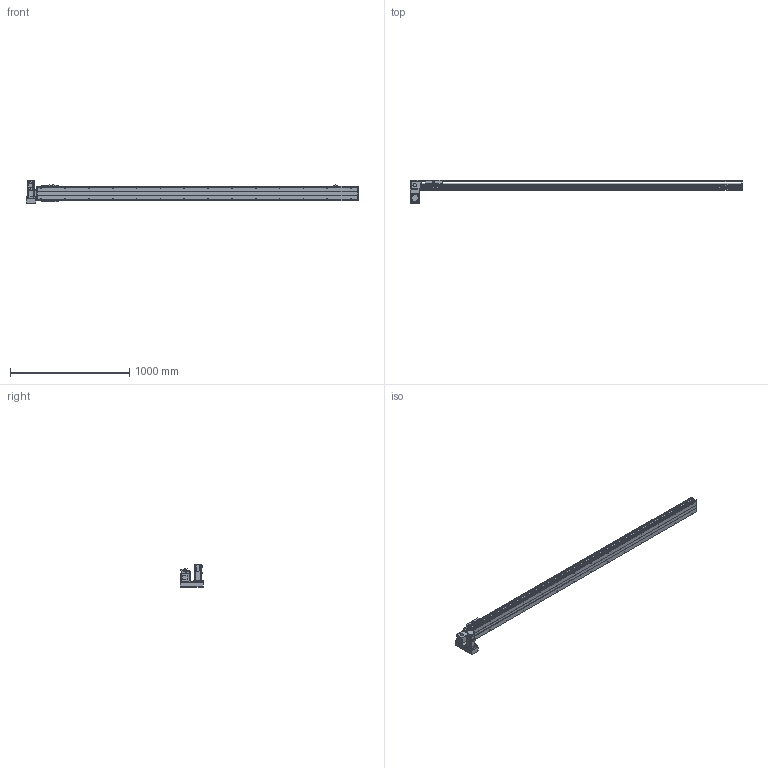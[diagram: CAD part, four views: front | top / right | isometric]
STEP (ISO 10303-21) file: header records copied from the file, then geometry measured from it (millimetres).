
FILE_DESCRIPTION( ( 'STEP AP214' ), '1' );
FILE_NAME( 'x:/temp/worker_6/temp/exporttempdir_3468_17_6N0RY/format_0/PBS120-P40-S2400-LD-T40-C1-N(0).stp', '2022-06-08T08:14:03', ( 'License CC BY-ND 4.0' ), ( 'CADENAS' ), ' ', 'PARTsolutions', ' ' );
FILE_SCHEMA( ( 'AUTOMOTIVE_DESIGN { 1 0 10303 214 1 1 1 1 }' ) );
Length unit declared in the file: millimetre
Products named in the file (7): PBS120-P40-S2400-LD-T40-C1-N(0); _PBS120-S2400()_body; _PBS120T-LD_motors; _T40-p1; _PBS120_sliser; _PBS120_plant; _PBS120_sensor
Assembly tree (8 placements, depth 2):
  PBS120-P40-S2400-LD-T40-C1-N(0)
    _PBS120-S2400()_body
    _PBS120T-LD_motors
    _T40-p1
    _PBS120_sliser
    _PBS120_plant
    _PBS120_sensor  x3
Bounding box: 2786 x 196 x 189.7 mm (x, y, z)
Volume: 10518333.9 mm3; surface area: 2169084 mm2
Topology: 8 solids, 8 shells, 864 faces, 2216 edges, 1423 vertices
Faces by surface type: plane 561, cylinder 241, cone 60, torus 2
Full cylindrical faces by diameter (mm): 2.459 x6, 3.242 x4, 4 x2, 4.134 x4, 4.5 x10, 4.917 x32, 5.5 x11, 6 x2, 6.6 x1, 7 x2, 8.5 x4, 9 x4, 12 x1, 14 x1, 30 x2, 40 x1, 50 x2
Entity records: 28332 total; most frequent: DIRECTION 3884, CARTESIAN_POINT 3785, ORIENTED_EDGE 3574, EDGE_CURVE 1787, AXIS2_PLACEMENT_3D 1328, VERTEX_POINT 1229, LINE 1228, VECTOR 1228
